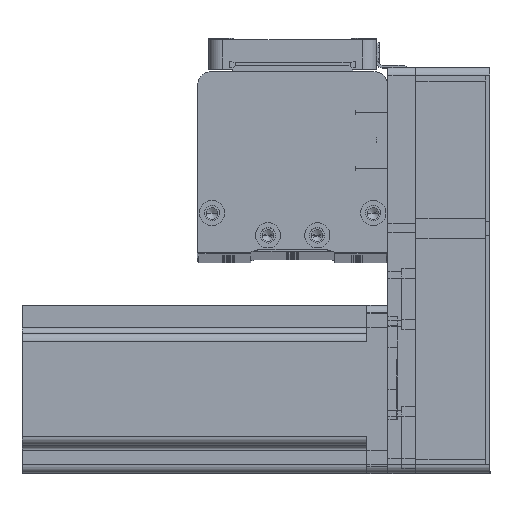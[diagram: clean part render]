
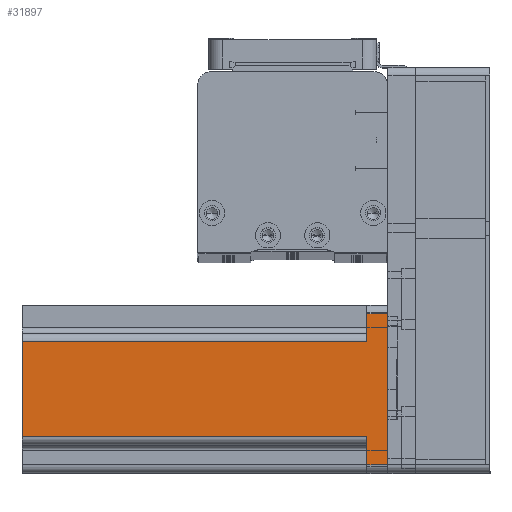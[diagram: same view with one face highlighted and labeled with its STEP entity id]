
A CAD part, top view. The second image highlights one B-rep face of the part: STEP entity #31897.
In plain terms, the highlighted planar face has unit normal (0, 0, 1) as drawn and (0, 1, 0) by its records, which use the part's own axes.
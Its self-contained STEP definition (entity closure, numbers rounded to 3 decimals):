
#597 = LINE ( 'NONE', #24801, #54900 ) ;
#1445 = VECTOR ( 'NONE', #48821, 1000. ) ;
#1803 = CARTESIAN_POINT ( 'NONE',  ( 17., 30., 130.7 ) ) ;
#2158 = CARTESIAN_POINT ( 'NONE',  ( -20., 30., 7.5 ) ) ;
#2251 = LINE ( 'NONE', #2158, #35078 ) ;
#2787 = LINE ( 'NONE', #1803, #1445 ) ;
#3018 = VERTEX_POINT ( 'NONE', #12457 ) ;
#3250 = DIRECTION ( 'NONE',  ( -1., 0., 0. ) ) ;
#4964 = EDGE_CURVE ( 'NONE', #35337, #52919, #54290, .T. ) ;
#6582 = CARTESIAN_POINT ( 'NONE',  ( 17., 30., 7.5 ) ) ;
#8321 = VECTOR ( 'NONE', #28719, 1000. ) ;
#9159 = ORIENTED_EDGE ( 'NONE', *, *, #30556, .T. ) ;
#10625 = VECTOR ( 'NONE', #3250, 1000. ) ;
#11075 = EDGE_CURVE ( 'NONE', #3018, #35337, #2251, .T. ) ;
#12457 = CARTESIAN_POINT ( 'NONE',  ( -27., 30., 7.5 ) ) ;
#13398 = EDGE_LOOP ( 'NONE', ( #45229, #40355, #54489, #33676, #21171, #18358, #9159, #21244 ) ) ;
#16784 = VECTOR ( 'NONE', #19162, 1000. ) ;
#17631 = CARTESIAN_POINT ( 'NONE',  ( -17., 30., 130.7 ) ) ;
#18231 = FACE_OUTER_BOUND ( 'NONE', #13398, .T. ) ;
#18358 = ORIENTED_EDGE ( 'NONE', *, *, #42581, .T. ) ;
#19162 = DIRECTION ( 'NONE',  ( -1., 0., 0. ) ) ;
#19754 = LINE ( 'NONE', #24238, #8321 ) ;
#20099 = VECTOR ( 'NONE', #21994, 1000. ) ;
#21072 = VERTEX_POINT ( 'NONE', #6582 ) ;
#21171 = ORIENTED_EDGE ( 'NONE', *, *, #52243, .F. ) ;
#21244 = ORIENTED_EDGE ( 'NONE', *, *, #44157, .T. ) ;
#21915 = CARTESIAN_POINT ( 'NONE',  ( 30., 30., 130.7 ) ) ;
#21994 = DIRECTION ( 'NONE',  ( 0., 0., 1. ) ) ;
#24238 = CARTESIAN_POINT ( 'NONE',  ( 27., 30., 130.7 ) ) ;
#24334 = LINE ( 'NONE', #28277, #45758 ) ;
#24801 = CARTESIAN_POINT ( 'NONE',  ( 30., 30., 0. ) ) ;
#25361 = EDGE_CURVE ( 'NONE', #29416, #52919, #43465, .T. ) ;
#25572 = VERTEX_POINT ( 'NONE', #51928 ) ;
#26035 = PLANE ( 'NONE',  #54774 ) ;
#26212 = DIRECTION ( 'NONE',  ( 1., 0., 0. ) ) ;
#28277 = CARTESIAN_POINT ( 'NONE',  ( -27., 30., 130.7 ) ) ;
#28719 = DIRECTION ( 'NONE',  ( 0., 0., -1. ) ) ;
#28961 = EDGE_CURVE ( 'NONE', #29416, #21072, #2787, .T. ) ;
#29010 = CARTESIAN_POINT ( 'NONE',  ( -17., 30., 130.7 ) ) ;
#29416 = VERTEX_POINT ( 'NONE', #39582 ) ;
#29552 = LINE ( 'NONE', #49104, #16784 ) ;
#30556 = EDGE_CURVE ( 'NONE', #25572, #52978, #597, .T. ) ;
#31897 = ADVANCED_FACE ( 'NONE', ( #18231 ), #26035, .F. ) ;
#32147 = DIRECTION ( 'NONE',  ( 1., 0., 0. ) ) ;
#33676 = ORIENTED_EDGE ( 'NONE', *, *, #28961, .T. ) ;
#33738 = CARTESIAN_POINT ( 'NONE',  ( -17., 30., 7.5 ) ) ;
#35078 = VECTOR ( 'NONE', #32147, 1000. ) ;
#35337 = VERTEX_POINT ( 'NONE', #33738 ) ;
#35836 = VERTEX_POINT ( 'NONE', #37450 ) ;
#37450 = CARTESIAN_POINT ( 'NONE',  ( 27., 30., 7.5 ) ) ;
#37502 = CARTESIAN_POINT ( 'NONE',  ( 30., 30., 130.7 ) ) ;
#39582 = CARTESIAN_POINT ( 'NONE',  ( 17., 30., 130.7 ) ) ;
#40355 = ORIENTED_EDGE ( 'NONE', *, *, #4964, .T. ) ;
#42581 = EDGE_CURVE ( 'NONE', #35836, #25572, #19754, .T. ) ;
#43465 = LINE ( 'NONE', #37502, #10625 ) ;
#44157 = EDGE_CURVE ( 'NONE', #52978, #3018, #24334, .T. ) ;
#45229 = ORIENTED_EDGE ( 'NONE', *, *, #11075, .T. ) ;
#45344 = DIRECTION ( 'NONE',  ( 0., 0., 1. ) ) ;
#45758 = VECTOR ( 'NONE', #45344, 1000. ) ;
#46596 = CARTESIAN_POINT ( 'NONE',  ( -27., 30., 0. ) ) ;
#48821 = DIRECTION ( 'NONE',  ( 0., 0., -1. ) ) ;
#49104 = CARTESIAN_POINT ( 'NONE',  ( 20., 30., 7.5 ) ) ;
#50439 = DIRECTION ( 'NONE',  ( -1., 0., 0. ) ) ;
#51856 = DIRECTION ( 'NONE',  ( 0., -1., 0. ) ) ;
#51928 = CARTESIAN_POINT ( 'NONE',  ( 27., 30., 0. ) ) ;
#52243 = EDGE_CURVE ( 'NONE', #35836, #21072, #29552, .T. ) ;
#52919 = VERTEX_POINT ( 'NONE', #29010 ) ;
#52978 = VERTEX_POINT ( 'NONE', #46596 ) ;
#54290 = LINE ( 'NONE', #17631, #20099 ) ;
#54489 = ORIENTED_EDGE ( 'NONE', *, *, #25361, .F. ) ;
#54774 = AXIS2_PLACEMENT_3D ( 'NONE', #21915, #51856, #26212 ) ;
#54900 = VECTOR ( 'NONE', #50439, 1000. ) ;
